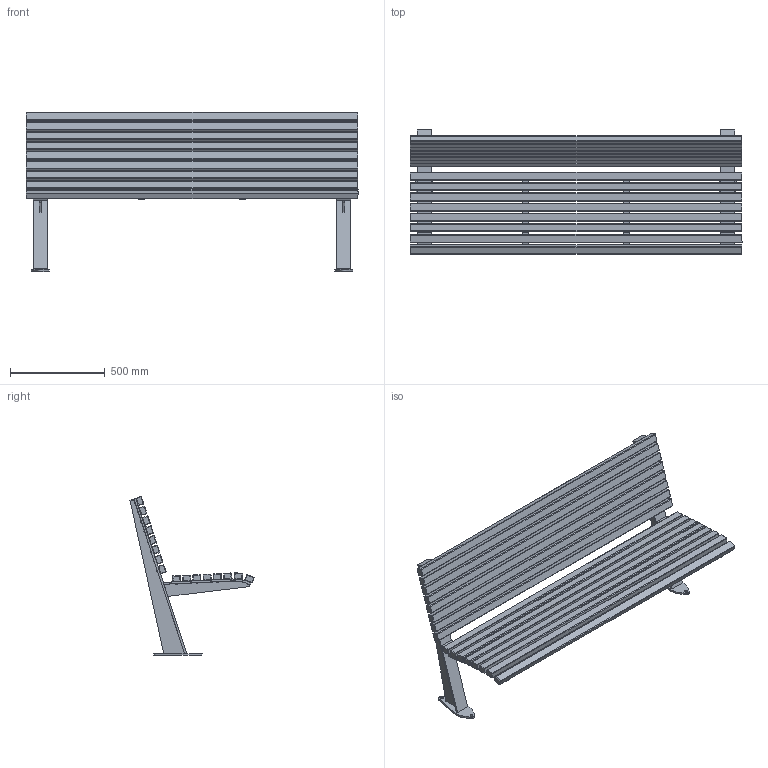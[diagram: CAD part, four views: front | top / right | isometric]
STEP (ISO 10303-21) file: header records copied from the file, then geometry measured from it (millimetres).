
FILE_DESCRIPTION(/* description */ (''),/* implementation_level */ '2;1');
FILE_NAME(/* name */ 'EDG01-B_UAP_EDGE_Seat_3D',/* time_stamp */ '2018-01-23T16:19:04-05:00',/* author */ (''),/* organization */ (''),/* preprocessor_version */ 'ST-DEVELOPER v15',/* originating_system */ '',/* authorisation */ '');
FILE_SCHEMA (('AUTOMOTIVE_DESIGN'));
Products named in the file (1): Document
Bounding box: 1750 x 653.93 x 838.37 mm (x, y, z)
Volume: 41509101.5 mm3; surface area: 5105445.1 mm2
Topology: 96 solids, 96 shells, 2768 faces, 7280 edges, 4586 vertices
Faces by surface type: bspline 1938, plane 830
Entity records: 89866 total; most frequent: CARTESIAN_POINT 50362, ORIENTED_EDGE 14068, EDGE_CURVE 7034, VERTEX_POINT 4586, EDGE_LOOP 3032, ADVANCED_FACE 2768, FACE_OUTER_BOUND 2768, B_SPLINE_CURVE_WITH_KNOTS 1399
